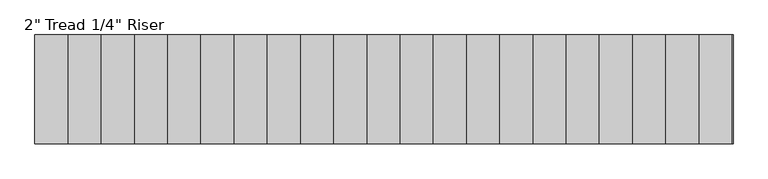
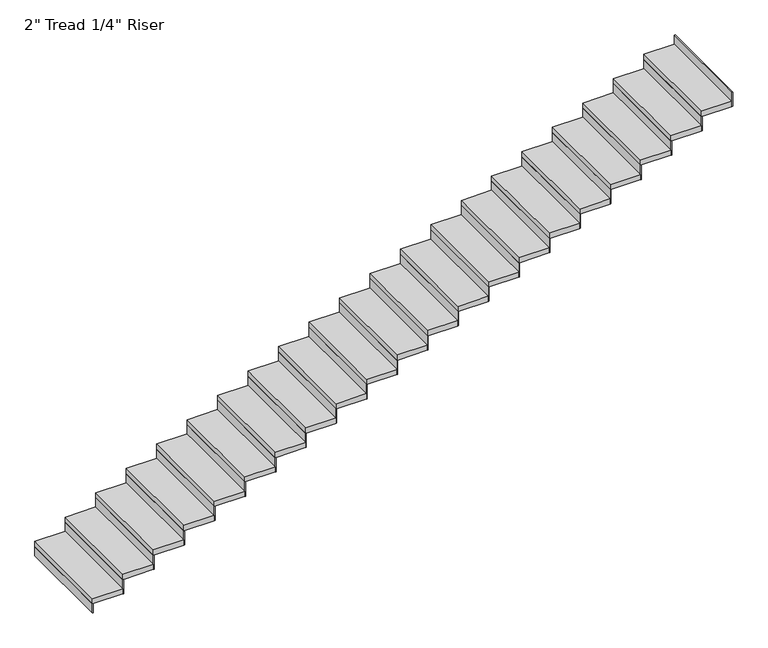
"""IFC4 building model written with IfcOpenShell, lengths in millimetres: stair flight geometry."""

from ifc_helpers import new_model, si_unit, frame, origin, origin_with_axes, place, context, project, spatial, polyline, outline, extrude, source, transform, mapped, element, save


def stair_flight_ec4a769a(model_context):
    return source(origin(), model_context, "Body", "SweptSolid", [
        extrude(outline(polyline([(14064.4766433, -2482.2469585), (14058.1266433, -2482.2469585), (14058.1266433, -1567.8469585), (14064.4766433, -1567.8469585), (14064.4766433, -2482.2469585)])), origin_with_axes(), (0.0, 0.0, 1.0), 87.7454545),
        extrude(outline(polyline([(14337.5266433, -1567.8469585), (14337.5266433, -2482.2469585), (14058.1266433, -2482.2469585), (14058.1266433, -1567.8469585), (14337.5266433, -1567.8469585)])), frame((0.0, 0.0, 87.7454545), z_axis=(0.0, 0.0, 1.0), x_axis=(1.0, 0.0, 0.0)), (0.0, 0.0, 1.0), 50.8),
        extrude(outline(polyline([(14343.8766433, -2482.2469585), (14337.5266433, -2482.2469585), (14337.5266433, -1567.8469585), (14343.8766433, -1567.8469585), (14343.8766433, -2482.2469585)])), frame((0.0, 0.0, 87.7454545), z_axis=(0.0, 0.0, 1.0), x_axis=(1.0, 0.0, 0.0)), (0.0, 0.0, 1.0), 138.5454545),
        extrude(outline(polyline([(14616.9266433, -1567.8469585), (14616.9266433, -2482.2469585), (14337.5266433, -2482.2469585), (14337.5266433, -1567.8469585), (14616.9266433, -1567.8469585)])), frame((0.0, 0.0, 226.2909091), z_axis=(0.0, 0.0, 1.0), x_axis=(1.0, 0.0, 0.0)), (0.0, 0.0, 1.0), 50.8),
        extrude(outline(polyline([(14623.2766433, -2482.2469585), (14616.9266433, -2482.2469585), (14616.9266433, -1567.8469585), (14623.2766433, -1567.8469585), (14623.2766433, -2482.2469585)])), frame((0.0, 0.0, 226.2909091), z_axis=(0.0, 0.0, 1.0), x_axis=(1.0, 0.0, 0.0)), (0.0, 0.0, 1.0), 138.5454545),
        extrude(outline(polyline([(14896.3266433, -1567.8469585), (14896.3266433, -2482.2469585), (14616.9266433, -2482.2469585), (14616.9266433, -1567.8469585), (14896.3266433, -1567.8469585)])), frame((0.0, 0.0, 364.8363636), z_axis=(0.0, 0.0, 1.0), x_axis=(1.0, 0.0, 0.0)), (0.0, 0.0, 1.0), 50.8),
        extrude(outline(polyline([(14902.6766433, -2482.2469585), (14896.3266433, -2482.2469585), (14896.3266433, -1567.8469585), (14902.6766433, -1567.8469585), (14902.6766433, -2482.2469585)])), frame((0.0, 0.0, 364.8363636), z_axis=(0.0, 0.0, 1.0), x_axis=(1.0, 0.0, 0.0)), (0.0, 0.0, 1.0), 138.5454545),
        extrude(outline(polyline([(15175.7266433, -1567.8469585), (15175.7266433, -2482.2469585), (14896.3266433, -2482.2469585), (14896.3266433, -1567.8469585), (15175.7266433, -1567.8469585)])), frame((0.0, 0.0, 503.3818182), z_axis=(0.0, 0.0, 1.0), x_axis=(1.0, 0.0, 0.0)), (0.0, 0.0, 1.0), 50.8),
        extrude(outline(polyline([(15182.0766433, -2482.2469585), (15175.7266433, -2482.2469585), (15175.7266433, -1567.8469585), (15182.0766433, -1567.8469585), (15182.0766433, -2482.2469585)])), frame((0.0, 0.0, 503.3818182), z_axis=(0.0, 0.0, 1.0), x_axis=(1.0, 0.0, 0.0)), (0.0, 0.0, 1.0), 138.5454545),
        extrude(outline(polyline([(15455.1266433, -1567.8469585), (15455.1266433, -2482.2469585), (15175.7266433, -2482.2469585), (15175.7266433, -1567.8469585), (15455.1266433, -1567.8469585)])), frame((0.0, 0.0, 641.9272727), z_axis=(0.0, 0.0, 1.0), x_axis=(1.0, 0.0, 0.0)), (0.0, 0.0, 1.0), 50.8),
        extrude(outline(polyline([(15461.4766433, -2482.2469585), (15455.1266433, -2482.2469585), (15455.1266433, -1567.8469585), (15461.4766433, -1567.8469585), (15461.4766433, -2482.2469585)])), frame((0.0, 0.0, 641.9272727), z_axis=(0.0, 0.0, 1.0), x_axis=(1.0, 0.0, 0.0)), (0.0, 0.0, 1.0), 138.5454545),
        extrude(outline(polyline([(15734.5266433, -1567.8469585), (15734.5266433, -2482.2469585), (15455.1266433, -2482.2469585), (15455.1266433, -1567.8469585), (15734.5266433, -1567.8469585)])), frame((0.0, 0.0, 780.4727273), z_axis=(0.0, 0.0, 1.0), x_axis=(1.0, 0.0, 0.0)), (0.0, 0.0, 1.0), 50.8),
        extrude(outline(polyline([(15740.8766433, -2482.2469585), (15734.5266433, -2482.2469585), (15734.5266433, -1567.8469585), (15740.8766433, -1567.8469585), (15740.8766433, -2482.2469585)])), frame((0.0, 0.0, 780.4727273), z_axis=(0.0, 0.0, 1.0), x_axis=(1.0, 0.0, 0.0)), (0.0, 0.0, 1.0), 138.5454545),
        extrude(outline(polyline([(16013.9266433, -1567.8469585), (16013.9266433, -2482.2469585), (15734.5266433, -2482.2469585), (15734.5266433, -1567.8469585), (16013.9266433, -1567.8469585)])), frame((0.0, 0.0, 919.0181818), z_axis=(0.0, 0.0, 1.0), x_axis=(1.0, 0.0, 0.0)), (0.0, 0.0, 1.0), 50.8),
        extrude(outline(polyline([(16020.2766433, -2482.2469585), (16013.9266433, -2482.2469585), (16013.9266433, -1567.8469585), (16020.2766433, -1567.8469585), (16020.2766433, -2482.2469585)])), frame((0.0, 0.0, 919.0181818), z_axis=(0.0, 0.0, 1.0), x_axis=(1.0, 0.0, 0.0)), (0.0, 0.0, 1.0), 138.5454545),
        extrude(outline(polyline([(16293.3266433, -1567.8469585), (16293.3266433, -2482.2469585), (16013.9266433, -2482.2469585), (16013.9266433, -1567.8469585), (16293.3266433, -1567.8469585)])), frame((0.0, 0.0, 1057.5636364), z_axis=(0.0, 0.0, 1.0), x_axis=(1.0, 0.0, 0.0)), (0.0, 0.0, 1.0), 50.8),
        extrude(outline(polyline([(16299.6766433, -2482.2469585), (16293.3266433, -2482.2469585), (16293.3266433, -1567.8469585), (16299.6766433, -1567.8469585), (16299.6766433, -2482.2469585)])), frame((0.0, 0.0, 1057.5636364), z_axis=(0.0, 0.0, 1.0), x_axis=(1.0, 0.0, 0.0)), (0.0, 0.0, 1.0), 138.5454545),
        extrude(outline(polyline([(16572.7266433, -1567.8469585), (16572.7266433, -2482.2469585), (16293.3266433, -2482.2469585), (16293.3266433, -1567.8469585), (16572.7266433, -1567.8469585)])), frame((0.0, 0.0, 1196.1090909), z_axis=(0.0, 0.0, 1.0), x_axis=(1.0, 0.0, 0.0)), (0.0, 0.0, 1.0), 50.8),
        extrude(outline(polyline([(16579.0766433, -2482.2469585), (16572.7266433, -2482.2469585), (16572.7266433, -1567.8469585), (16579.0766433, -1567.8469585), (16579.0766433, -2482.2469585)])), frame((0.0, 0.0, 1196.1090909), z_axis=(0.0, 0.0, 1.0), x_axis=(1.0, 0.0, 0.0)), (0.0, 0.0, 1.0), 138.5454545),
        extrude(outline(polyline([(16852.1266433, -1567.8469585), (16852.1266433, -2482.2469585), (16572.7266433, -2482.2469585), (16572.7266433, -1567.8469585), (16852.1266433, -1567.8469585)])), frame((0.0, 0.0, 1334.6545455), z_axis=(0.0, 0.0, 1.0), x_axis=(1.0, 0.0, 0.0)), (0.0, 0.0, 1.0), 50.8),
        extrude(outline(polyline([(16858.4766433, -2482.2469585), (16852.1266433, -2482.2469585), (16852.1266433, -1567.8469585), (16858.4766433, -1567.8469585), (16858.4766433, -2482.2469585)])), frame((0.0, 0.0, 1334.6545455), z_axis=(0.0, 0.0, 1.0), x_axis=(1.0, 0.0, 0.0)), (0.0, 0.0, 1.0), 138.5454545),
        extrude(outline(polyline([(17131.5266433, -1567.8469585), (17131.5266433, -2482.2469585), (16852.1266433, -2482.2469585), (16852.1266433, -1567.8469585), (17131.5266433, -1567.8469585)])), frame((0.0, 0.0, 1473.2), z_axis=(0.0, 0.0, 1.0), x_axis=(1.0, 0.0, 0.0)), (0.0, 0.0, 1.0), 50.8),
        extrude(outline(polyline([(17137.8766433, -2482.2469585), (17131.5266433, -2482.2469585), (17131.5266433, -1567.8469585), (17137.8766433, -1567.8469585), (17137.8766433, -2482.2469585)])), frame((0.0, 0.0, 1473.2), z_axis=(0.0, 0.0, 1.0), x_axis=(1.0, 0.0, 0.0)), (0.0, 0.0, 1.0), 138.5454545),
        extrude(outline(polyline([(17410.9266433, -1567.8469585), (17410.9266433, -2482.2469585), (17131.5266433, -2482.2469585), (17131.5266433, -1567.8469585), (17410.9266433, -1567.8469585)])), frame((0.0, 0.0, 1611.7454545), z_axis=(0.0, 0.0, 1.0), x_axis=(1.0, 0.0, 0.0)), (0.0, 0.0, 1.0), 50.8),
        extrude(outline(polyline([(17417.2766433, -2482.2469585), (17410.9266433, -2482.2469585), (17410.9266433, -1567.8469585), (17417.2766433, -1567.8469585), (17417.2766433, -2482.2469585)])), frame((0.0, 0.0, 1611.7454545), z_axis=(0.0, 0.0, 1.0), x_axis=(1.0, 0.0, 0.0)), (0.0, 0.0, 1.0), 138.5454545),
        extrude(outline(polyline([(17690.3266433, -1567.8469585), (17690.3266433, -2482.2469585), (17410.9266433, -2482.2469585), (17410.9266433, -1567.8469585), (17690.3266433, -1567.8469585)])), frame((0.0, 0.0, 1750.2909091), z_axis=(0.0, 0.0, 1.0), x_axis=(1.0, 0.0, 0.0)), (0.0, 0.0, 1.0), 50.8),
        extrude(outline(polyline([(17696.6766433, -2482.2469585), (17690.3266433, -2482.2469585), (17690.3266433, -1567.8469585), (17696.6766433, -1567.8469585), (17696.6766433, -2482.2469585)])), frame((0.0, 0.0, 1750.2909091), z_axis=(0.0, 0.0, 1.0), x_axis=(1.0, 0.0, 0.0)), (0.0, 0.0, 1.0), 138.5454545),
        extrude(outline(polyline([(17969.7266433, -1567.8469585), (17969.7266433, -2482.2469585), (17690.3266433, -2482.2469585), (17690.3266433, -1567.8469585), (17969.7266433, -1567.8469585)])), frame((0.0, 0.0, 1888.8363636), z_axis=(0.0, 0.0, 1.0), x_axis=(1.0, 0.0, 0.0)), (0.0, 0.0, 1.0), 50.8),
        extrude(outline(polyline([(17976.0766433, -2482.2469585), (17969.7266433, -2482.2469585), (17969.7266433, -1567.8469585), (17976.0766433, -1567.8469585), (17976.0766433, -2482.2469585)])), frame((0.0, 0.0, 1888.8363636), z_axis=(0.0, 0.0, 1.0), x_axis=(1.0, 0.0, 0.0)), (0.0, 0.0, 1.0), 138.5454545),
        extrude(outline(polyline([(18249.1266433, -1567.8469585), (18249.1266433, -2482.2469585), (17969.7266433, -2482.2469585), (17969.7266433, -1567.8469585), (18249.1266433, -1567.8469585)])), frame((0.0, 0.0, 2027.3818182), z_axis=(0.0, 0.0, 1.0), x_axis=(1.0, 0.0, 0.0)), (0.0, 0.0, 1.0), 50.8),
        extrude(outline(polyline([(18255.4766433, -2482.2469585), (18249.1266433, -2482.2469585), (18249.1266433, -1567.8469585), (18255.4766433, -1567.8469585), (18255.4766433, -2482.2469585)])), frame((0.0, 0.0, 2027.3818182), z_axis=(0.0, 0.0, 1.0), x_axis=(1.0, 0.0, 0.0)), (0.0, 0.0, 1.0), 138.5454545),
        extrude(outline(polyline([(18528.5266433, -1567.8469585), (18528.5266433, -2482.2469585), (18249.1266433, -2482.2469585), (18249.1266433, -1567.8469585), (18528.5266433, -1567.8469585)])), frame((0.0, 0.0, 2165.9272727), z_axis=(0.0, 0.0, 1.0), x_axis=(1.0, 0.0, 0.0)), (0.0, 0.0, 1.0), 50.8),
        extrude(outline(polyline([(18534.8766433, -2482.2469585), (18528.5266433, -2482.2469585), (18528.5266433, -1567.8469585), (18534.8766433, -1567.8469585), (18534.8766433, -2482.2469585)])), frame((0.0, 0.0, 2165.9272727), z_axis=(0.0, 0.0, 1.0), x_axis=(1.0, 0.0, 0.0)), (0.0, 0.0, 1.0), 138.5454545),
        extrude(outline(polyline([(18807.9266433, -1567.8469585), (18807.9266433, -2482.2469585), (18528.5266433, -2482.2469585), (18528.5266433, -1567.8469585), (18807.9266433, -1567.8469585)])), frame((0.0, 0.0, 2304.4727273), z_axis=(0.0, 0.0, 1.0), x_axis=(1.0, 0.0, 0.0)), (0.0, 0.0, 1.0), 50.8),
        extrude(outline(polyline([(18814.2766433, -2482.2469585), (18807.9266433, -2482.2469585), (18807.9266433, -1567.8469585), (18814.2766433, -1567.8469585), (18814.2766433, -2482.2469585)])), frame((0.0, 0.0, 2304.4727273), z_axis=(0.0, 0.0, 1.0), x_axis=(1.0, 0.0, 0.0)), (0.0, 0.0, 1.0), 138.5454545),
        extrude(outline(polyline([(19087.3266433, -1567.8469585), (19087.3266433, -2482.2469585), (18807.9266433, -2482.2469585), (18807.9266433, -1567.8469585), (19087.3266433, -1567.8469585)])), frame((0.0, 0.0, 2443.0181818), z_axis=(0.0, 0.0, 1.0), x_axis=(1.0, 0.0, 0.0)), (0.0, 0.0, 1.0), 50.8),
        extrude(outline(polyline([(19093.6766433, -2482.2469585), (19087.3266433, -2482.2469585), (19087.3266433, -1567.8469585), (19093.6766433, -1567.8469585), (19093.6766433, -2482.2469585)])), frame((0.0, 0.0, 2443.0181818), z_axis=(0.0, 0.0, 1.0), x_axis=(1.0, 0.0, 0.0)), (0.0, 0.0, 1.0), 138.5454545),
        extrude(outline(polyline([(19366.7266433, -1567.8469585), (19366.7266433, -2482.2469585), (19087.3266433, -2482.2469585), (19087.3266433, -1567.8469585), (19366.7266433, -1567.8469585)])), frame((0.0, 0.0, 2581.5636364), z_axis=(0.0, 0.0, 1.0), x_axis=(1.0, 0.0, 0.0)), (0.0, 0.0, 1.0), 50.8),
        extrude(outline(polyline([(19373.0766433, -2482.2469585), (19366.7266433, -2482.2469585), (19366.7266433, -1567.8469585), (19373.0766433, -1567.8469585), (19373.0766433, -2482.2469585)])), frame((0.0, 0.0, 2581.5636364), z_axis=(0.0, 0.0, 1.0), x_axis=(1.0, 0.0, 0.0)), (0.0, 0.0, 1.0), 138.5454545),
        extrude(outline(polyline([(19646.1266433, -1567.8469585), (19646.1266433, -2482.2469585), (19366.7266433, -2482.2469585), (19366.7266433, -1567.8469585), (19646.1266433, -1567.8469585)])), frame((0.0, 0.0, 2720.1090909), z_axis=(0.0, 0.0, 1.0), x_axis=(1.0, 0.0, 0.0)), (0.0, 0.0, 1.0), 50.8),
        extrude(outline(polyline([(19652.4766433, -2482.2469585), (19646.1266433, -2482.2469585), (19646.1266433, -1567.8469585), (19652.4766433, -1567.8469585), (19652.4766433, -2482.2469585)])), frame((0.0, 0.0, 2720.1090909), z_axis=(0.0, 0.0, 1.0), x_axis=(1.0, 0.0, 0.0)), (0.0, 0.0, 1.0), 138.5454545),
        extrude(outline(polyline([(19931.8766433, -2482.2469585), (19925.5266433, -2482.2469585), (19925.5266433, -1567.8469585), (19931.8766433, -1567.8469585), (19931.8766433, -2482.2469585)])), frame((0.0, 0.0, 2858.6545455), z_axis=(0.0, 0.0, 1.0), x_axis=(1.0, 0.0, 0.0)), (0.0, 0.0, 1.0), 138.5454545),
        extrude(outline(polyline([(19925.5266433, -1567.8469585), (19925.5266433, -2482.2469585), (19646.1266433, -2482.2469585), (19646.1266433, -1567.8469585), (19925.5266433, -1567.8469585)])), frame((0.0, 0.0, 2858.6545455), z_axis=(0.0, 0.0, 1.0), x_axis=(1.0, 0.0, 0.0)), (0.0, 0.0, 1.0), 50.8),
    ])


if __name__ == "__main__":
    model = new_model("IFC4")
    model_context = context("Model", 3, world=origin())
    ifc_project = project(units=[si_unit("LENGTHUNIT", "METRE", prefix="MILLI")], contexts=[model_context])
    site = spatial("IfcSite", under=ifc_project)
    building = spatial("IfcBuilding", under=site)
    placement = place(None, origin())
    stair_flight_shape = stair_flight_ec4a769a(model_context)
    element("IfcStairFlight", 1, ObjectType="2\" Tread 1/4\" Riser", at=placement, inside=building, context=model_context, shape_type="MappedRepresentation", body=[
        mapped(stair_flight_shape, transform((0.0, 0.0, 0.0), x_axis=(1.0, 0.0, 0.0), y_axis=(0.0, 1.0, 0.0), z_axis=(0.0, 0.0, 1.0))),
    ])
    save(model, "model.ifc")
